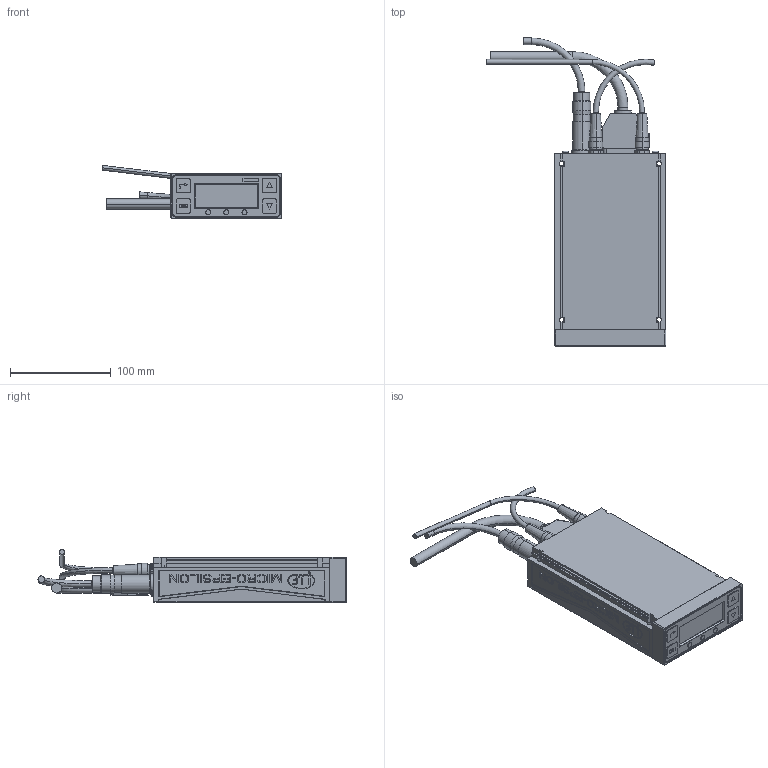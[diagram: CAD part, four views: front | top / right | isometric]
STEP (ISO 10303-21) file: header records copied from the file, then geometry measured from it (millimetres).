
FILE_DESCRIPTION (( 'STEP AP214' ), '1' );
FILE_NAME ('Controller ODC 2500-C.STEP', '2006-10-23T14:31:45', ( 'Bauer' ), ( 'Micro-Epsilon Optronic' ), 'SwSTEP 2.0', 'SolidWorks 2006104', '' );
FILE_SCHEMA (( 'AUTOMOTIVE_DESIGN' ));
Length unit declared in the file: millimetre
Products named in the file (1): Controller ODC 2500-C
Bounding box: 178.43 x 305.83 x 52.84 mm (x, y, z)
Volume: 405025 mm3; surface area: 247084.8 mm2
Topology: 30 solids, 30 shells, 2361 faces, 5840 edges, 3864 vertices
Faces by surface type: plane 1368, cylinder 895, bspline 55, cone 28, torus 15
Entity records: 100754 total; most frequent: CARTESIAN_POINT 17098, DIRECTION 12044, ORIENTED_EDGE 11672, EDGE_CURVE 5836, AXIS2_PLACEMENT_3D 4110, VERTEX_POINT 3864, VECTOR 3824, LINE 3824
